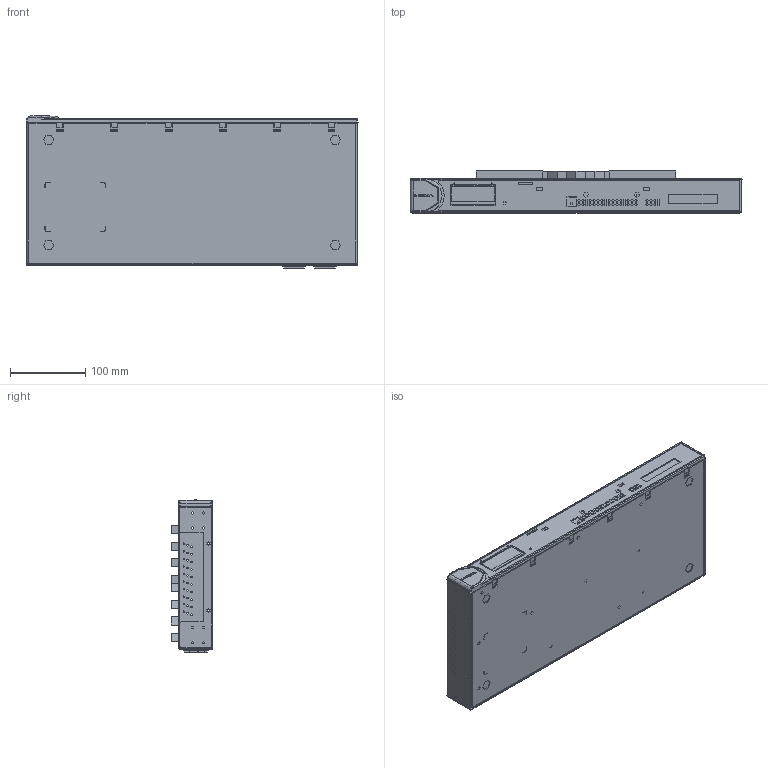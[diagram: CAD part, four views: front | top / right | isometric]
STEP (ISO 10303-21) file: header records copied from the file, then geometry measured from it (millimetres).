
FILE_DESCRIPTION((''),'2;1');
FILE_NAME('CN2610_16_ASM_ASM','2010-11-04T',('Vincent_Huang'),(''),'PRO/ENGINEER BY PARAMETRIC TECHNOLOGY CORPORATION, 2004320','PRO/ENGINEER BY PARAMETRIC TECHNOLOGY CORPORATION, 2004320','');
FILE_SCHEMA(('CONFIG_CONTROL_DESIGN'));
Products named in the file (2): _CN2610_16_ASM; CN2610_16_ASM_ASM
Assembly tree (1 placements, depth 2):
  CN2610_16_ASM_ASM
    _CN2610_16_ASM
Bounding box: 440 x 55.6 x 201.6 mm (x, y, z)
Volume: 421393.8 mm3; surface area: 710979.4 mm2
Topology: 23 solids, 36 shells, 3658 faces, 8932 edges, 5896 vertices
Faces by surface type: plane 1966, cylinder 1523, bspline 88, cone 56, extrusion 15, torus 6, sphere 4
Full cylindrical faces by diameter (mm): 0.226 x2, 2 x20, 2.1 x4, 3.4 x72, 3.5 x8, 4 x2, 4.877 x4, 5 x16, 6 x4, 6.5 x2, 8 x12, 9.6 x12, 50.863 x1
Entity records: 112272 total; most frequent: CARTESIAN_POINT 22419, DIRECTION 19310, ORIENTED_EDGE 17752, EDGE_CURVE 8928, AXIS2_PLACEMENT_3D 6948, VERTEX_POINT 5894, VECTOR 5414, LINE 5399
